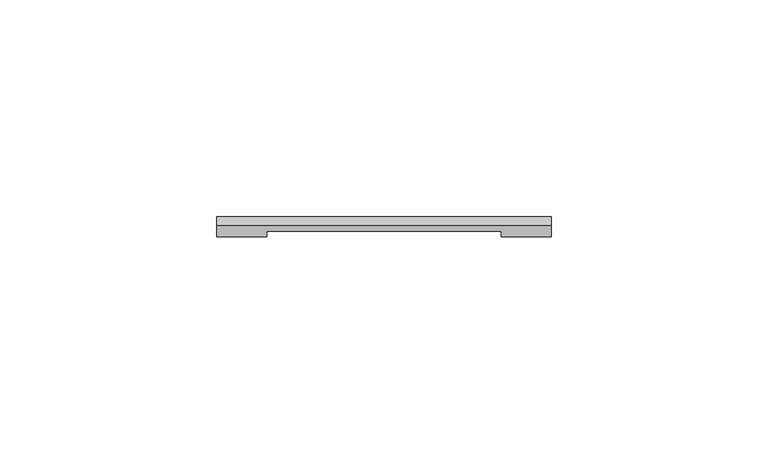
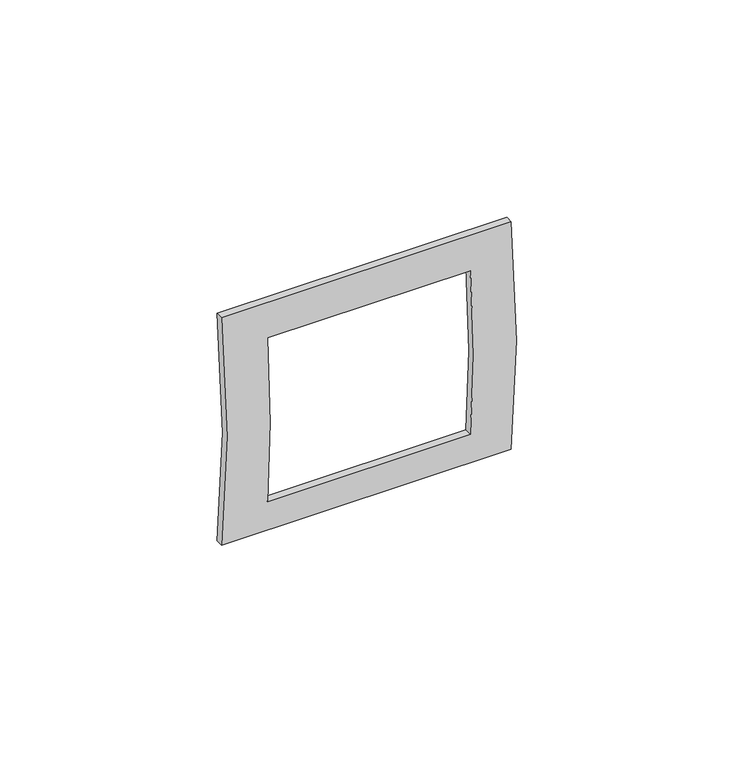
"""IFC4 building model written with IfcOpenShell, lengths in millimetres: proxy geometry, КНС_РамкаУниверсальная_ILF_DKC : 2 модуля."""

from ifc_helpers import new_model, si_unit, frame, origin, place, context, project, spatial, polyline, circle_curve, source, transform, mapped, element, save
from ifc_brep_helpers import plane_surface, cylinder_surface, revolved_surface, advanced_brep


def electrical_fixtures_66c558c8(model_context):
    return source(origin(), model_context, "Body", "AdvancedBrep", [
        advanced_brep(
        [(38.5, -2.0, 31.9768143), (38.5, -2.0, -31.9768143), (38.5, 0.0, -31.9768143), (38.5, 0.0, 31.9768143), (-38.5, -2.0, 31.9768143), (-38.5, 0.0, 31.9768143), (-38.5, 0.0, -31.9768143), (-38.5, -2.0, -31.9768143), (27.0, -3.2414184, 22.9768143), (27.0, -3.2414184, -22.9768143), (-27.0, -3.2414184, -22.9768143), (-27.0, -3.2414184, 22.9768143), (27.0, -1.2414184, -22.9768143), (27.0, -1.2414184, 22.9768143), (-27.0, -1.2414184, 22.9768143), (-27.0, -1.2414184, -22.9768143)],
        [
            (0, 1, circle_curve(frame((38.5, 196.5799224, 0.0), z_axis=(1.0, 0.0, 0.0), x_axis=(0.0, 1.0, 0.0)), 201.1380178)),
            (1, 2),
            (2, 3, circle_curve(frame((38.5, 198.5799224, 0.0), z_axis=(-1.0, 0.0, 0.0), x_axis=(0.0, 1.0, 0.0)), 201.1380178)),
            (3, 0),
            (4, 5),
            (5, 6, circle_curve(frame((-38.5, 198.5799224, 0.0), z_axis=(1.0, 0.0, 0.0), x_axis=(0.0, 1.0, 0.0)), 201.1380178)),
            (6, 7),
            (7, 4, circle_curve(frame((-38.5, 196.5799224, 0.0), z_axis=(-1.0, 0.0, 0.0), x_axis=(0.0, 1.0, 0.0)), 201.1380178)),
            (0, 4),
            (7, 1),
            (8, 9, circle_curve(frame((27.0, 196.5799224, 0.0), z_axis=(1.0, 0.0, 0.0), x_axis=(0.0, 1.0, 0.0)), 201.1380178)),
            (9, 10),
            (10, 11, circle_curve(frame((-27.0, 196.5799224, 0.0), z_axis=(-1.0, 0.0, 0.0), x_axis=(0.0, 1.0, 0.0)), 201.1380178)),
            (11, 8),
            (6, 2),
            (5, 3),
            (12, 13, circle_curve(frame((27.0, 198.5799224, 0.0), z_axis=(-1.0, 0.0, 0.0), x_axis=(0.0, 1.0, 0.0)), 201.1380178)),
            (13, 14),
            (14, 15, circle_curve(frame((-27.0, 198.5799224, 0.0), z_axis=(1.0, 0.0, 0.0), x_axis=(0.0, 1.0, 0.0)), 201.1380178)),
            (15, 12),
            (8, 13),
            (12, 9),
            (10, 15),
            (14, 11),
        ],
        [
            plane_surface(frame((38.5, 397.7179402, 0.0), z_axis=(1.0, 0.0, 0.0), x_axis=(0.0, 0.0, 1.0))),
            plane_surface(frame((-38.5, 397.7179402, 0.0), z_axis=(-1.0, 0.0, 0.0), x_axis=(0.0, 0.0, -1.0))),
            cylinder_surface(frame((-38.5, 196.5799224, 0.0), z_axis=(1.0, 0.0, 0.0), x_axis=(0.0, 1.0, 0.0)), 201.1380178),
            plane_surface(frame((38.5, -2.0, -31.9768143), z_axis=(0.0, 0.0, -1.0), x_axis=(-1.0, 0.0, 0.0))),
            revolved_surface(polyline([(-38.5, 399.7179402, 0.0), (38.5, 399.7179402, 0.0)]), (-38.5, 198.5799224, 0.0), (-1.0, 0.0, 0.0)),
            plane_surface(frame((38.5, 0.0, 31.9768143), z_axis=(0.0, 0.0, 1.0), x_axis=(-1.0, 0.0, 0.0))),
            plane_surface(frame((27.0, 397.7179402, 0.0), z_axis=(-1.0, 0.0, 0.0), x_axis=(0.0, 0.0, 1.0))),
            plane_surface(frame((-27.0, 397.7179402, 0.0), z_axis=(1.0, 0.0, 0.0), x_axis=(0.0, 0.0, -1.0))),
            plane_surface(frame((27.0, -1.2414184, 22.9768143), z_axis=(0.0, 0.0, -1.0), x_axis=(-1.0, 0.0, 0.0))),
            plane_surface(frame((27.0, -3.2414184, -22.9768143), z_axis=(0.0, 0.0, 1.0), x_axis=(-1.0, 0.0, 0.0))),
        ],
        [
            (0, [[1, 2, 3, 4]]),
            (1, [[5, 6, 7, 8]]),
            (2, [[-1, 9, -8, 10], [11, 12, 13, 14]]),
            (3, [[-2, -10, -7, 15]]),
            (4, [[-3, -15, -6, 16], [17, 18, 19, 20]]),
            (5, [[-4, -16, -5, -9]]),
            (6, [[21, -17, 22, -11]]),
            (7, [[23, -19, 24, -13]]),
            (8, [[-21, -14, -24, -18]]),
            (9, [[-22, -20, -23, -12]]),
        ],
    ),
    ])


if __name__ == "__main__":
    model = new_model("IFC4")
    model_context = context("Model", 3, world=origin())
    ifc_project = project(units=[si_unit("LENGTHUNIT", "METRE", prefix="MILLI")], contexts=[model_context])
    site = spatial("IfcSite", under=ifc_project)
    building = spatial("IfcBuilding", under=site)
    placement = place(None, origin())
    electrical_fixtures_shape = electrical_fixtures_66c558c8(model_context)
    element("IfcBuildingElementProxy", 1, Name="КНС_РамкаУниверсальная_ILF_DKC : 2 модуля", ObjectType="КНС_РамкаУниверсальная_ILF_DKC : 2 модуля", at=placement, inside=building, context=model_context, shape_type="MappedRepresentation", body=[
        mapped(electrical_fixtures_shape, transform((0.0, 0.0, 0.0), x_axis=(1.0, 0.0, 0.0), y_axis=(0.0, 1.0, 0.0), z_axis=(0.0, 0.0, 1.0))),
    ])
    save(model, "model.ifc")
